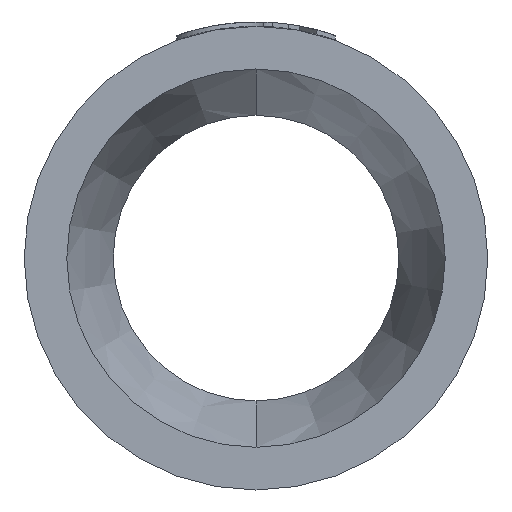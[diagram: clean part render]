
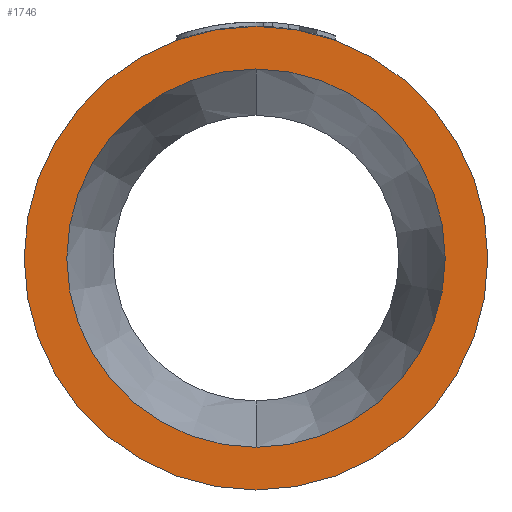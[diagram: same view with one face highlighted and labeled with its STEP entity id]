
A CAD part, left-side view. The second image highlights one B-rep face of the part: STEP entity #1746.
In plain terms, the highlighted planar face has unit normal (-1, 0, 0).
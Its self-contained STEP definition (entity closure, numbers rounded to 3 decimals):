
#162 = FACE_BOUND ( 'NONE', #1111, .T. ) ;
#288 = EDGE_CURVE ( 'NONE', #1485, #706, #290, .T. ) ;
#290 = CIRCLE ( 'NONE', #1464, 25. ) ;
#400 = EDGE_CURVE ( 'NONE', #706, #1485, #544, .T. ) ;
#544 = CIRCLE ( 'NONE', #1406, 25. ) ;
#614 = DIRECTION ( 'NONE',  ( 0., 0., -1. ) ) ;
#628 = DIRECTION ( 'NONE',  ( 1., 0., 0. ) ) ;
#632 = CARTESIAN_POINT ( 'NONE',  ( 0., 20.4, 0. ) ) ;
#658 = FACE_OUTER_BOUND ( 'NONE', #989, .T. ) ;
#706 = VERTEX_POINT ( 'NONE', #1643 ) ;
#740 = PLANE ( 'NONE',  #1214 ) ;
#921 = CARTESIAN_POINT ( 'NONE',  ( 0., 0., -20.4 ) ) ;
#926 = CIRCLE ( 'NONE', #2194, 20.4 ) ;
#989 = EDGE_LOOP ( 'NONE', ( #1465, #1500 ) ) ;
#1089 = CARTESIAN_POINT ( 'NONE',  ( 0., 0., 20.4 ) ) ;
#1111 = EDGE_LOOP ( 'NONE', ( #1388, #1452 ) ) ;
#1180 = CARTESIAN_POINT ( 'NONE',  ( 0., 0., -25. ) ) ;
#1214 = AXIS2_PLACEMENT_3D ( 'NONE', #632, #628, #614 ) ;
#1276 = DIRECTION ( 'NONE',  ( 0., 0., 1. ) ) ;
#1278 = DIRECTION ( 'NONE',  ( -1., 0., 0. ) ) ;
#1284 = CARTESIAN_POINT ( 'NONE',  ( 0., 0., 0. ) ) ;
#1299 = DIRECTION ( 'NONE',  ( 0., 0., 1. ) ) ;
#1360 = DIRECTION ( 'NONE',  ( 0., 0., 1. ) ) ;
#1364 = DIRECTION ( 'NONE',  ( -1., 0., 0. ) ) ;
#1367 = CARTESIAN_POINT ( 'NONE',  ( 0., 0., 0. ) ) ;
#1388 = ORIENTED_EDGE ( 'NONE', *, *, #2515, .F. ) ;
#1406 = AXIS2_PLACEMENT_3D ( 'NONE', #1430, #1854, #1299 ) ;
#1430 = CARTESIAN_POINT ( 'NONE',  ( 0., 0., 0. ) ) ;
#1452 = ORIENTED_EDGE ( 'NONE', *, *, #3234, .F. ) ;
#1464 = AXIS2_PLACEMENT_3D ( 'NONE', #2811, #1919, #2137 ) ;
#1465 = ORIENTED_EDGE ( 'NONE', *, *, #400, .T. ) ;
#1485 = VERTEX_POINT ( 'NONE', #1180 ) ;
#1500 = ORIENTED_EDGE ( 'NONE', *, *, #288, .T. ) ;
#1535 = VERTEX_POINT ( 'NONE', #1089 ) ;
#1643 = CARTESIAN_POINT ( 'NONE',  ( 0., 0., 25. ) ) ;
#1652 = VERTEX_POINT ( 'NONE', #921 ) ;
#1746 = ADVANCED_FACE ( 'NONE', ( #162, #658 ), #740, .F. ) ;
#1854 = DIRECTION ( 'NONE',  ( -1., 0., 0. ) ) ;
#1910 = AXIS2_PLACEMENT_3D ( 'NONE', #1367, #1364, #1360 ) ;
#1919 = DIRECTION ( 'NONE',  ( -1., 0., 0. ) ) ;
#2137 = DIRECTION ( 'NONE',  ( 0., 0., 1. ) ) ;
#2194 = AXIS2_PLACEMENT_3D ( 'NONE', #1284, #1278, #1276 ) ;
#2444 = CIRCLE ( 'NONE', #1910, 20.4 ) ;
#2515 = EDGE_CURVE ( 'NONE', #1535, #1652, #2444, .T. ) ;
#2811 = CARTESIAN_POINT ( 'NONE',  ( 0., 0., 0. ) ) ;
#3234 = EDGE_CURVE ( 'NONE', #1652, #1535, #926, .T. ) ;
